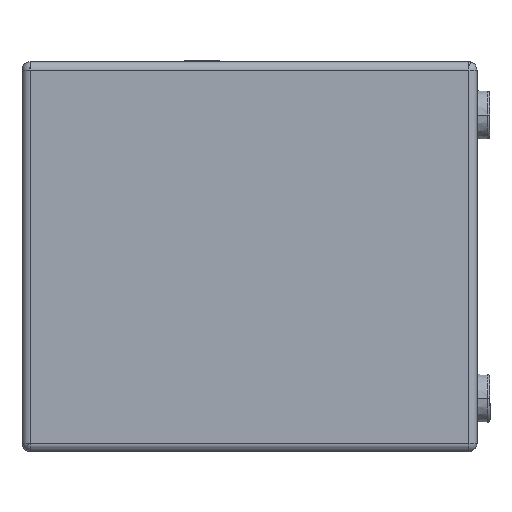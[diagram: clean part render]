
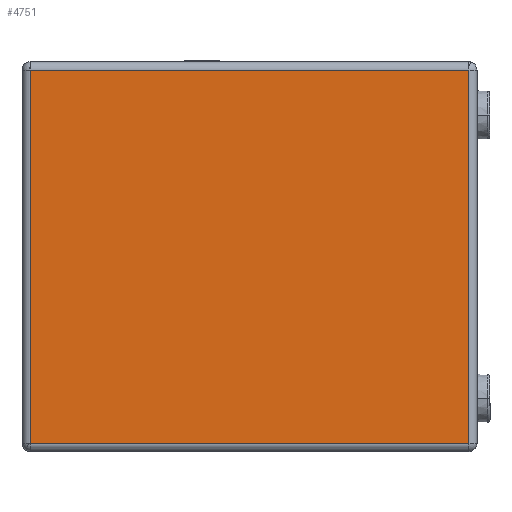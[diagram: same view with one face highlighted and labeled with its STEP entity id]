
A CAD part, left-side view. The second image highlights one B-rep face of the part: STEP entity #4751.
In plain terms, the highlighted planar face has unit normal (-1, 0, 0).
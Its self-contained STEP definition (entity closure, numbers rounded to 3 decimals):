
#482 = VERTEX_POINT ( 'NONE', #10391 ) ;
#3502 = CARTESIAN_POINT ( 'NONE',  ( 0., 6.5, -8.5 ) ) ;
#4541 = VERTEX_POINT ( 'NONE', #10662 ) ;
#4550 = EDGE_CURVE ( 'NONE', #4541, #9349, #10699, .T. ) ;
#4571 = EDGE_CURVE ( 'NONE', #9349, #482, #10721, .T. ) ;
#4593 = VERTEX_POINT ( 'NONE', #10733 ) ;
#4595 = EDGE_CURVE ( 'NONE', #482, #4593, #10790, .T. ) ;
#4748 = ORIENTED_EDGE ( 'NONE', *, *, #4595, .T. ) ;
#4751 = ADVANCED_FACE ( 'NONE', ( #11102 ), #11101, .T. ) ;
#4752 = EDGE_LOOP ( 'NONE', ( #4748, #4773, #4772, #4763 ) ) ;
#4763 = ORIENTED_EDGE ( 'NONE', *, *, #4571, .T. ) ;
#4772 = ORIENTED_EDGE ( 'NONE', *, *, #4550, .T. ) ;
#4773 = ORIENTED_EDGE ( 'NONE', *, *, #4774, .F. ) ;
#4774 = EDGE_CURVE ( 'NONE', #4541, #4593, #11136, .T. ) ;
#9349 = VERTEX_POINT ( 'NONE', #3502 ) ;
#10391 = CARTESIAN_POINT ( 'NONE',  ( 0., 6.5, 328.5 ) ) ;
#10662 = CARTESIAN_POINT ( 'NONE',  ( 0., 293.5, -8.5 ) ) ;
#10696 = DIRECTION ( 'NONE',  ( 0., -1., 0. ) ) ;
#10697 = VECTOR ( 'NONE', #10696, 1000. ) ;
#10698 = CARTESIAN_POINT ( 'NONE',  ( 0., 300., -8.5 ) ) ;
#10699 = LINE ( 'NONE', #10698, #10697 ) ;
#10718 = DIRECTION ( 'NONE',  ( 0., 0., 1. ) ) ;
#10719 = VECTOR ( 'NONE', #10718, 1000. ) ;
#10720 = CARTESIAN_POINT ( 'NONE',  ( 0., 6.5, 335. ) ) ;
#10721 = LINE ( 'NONE', #10720, #10719 ) ;
#10733 = CARTESIAN_POINT ( 'NONE',  ( 0., 293.5, 328.5 ) ) ;
#10787 = DIRECTION ( 'NONE',  ( 0., 1., 0. ) ) ;
#10788 = VECTOR ( 'NONE', #10787, 1000. ) ;
#10789 = CARTESIAN_POINT ( 'NONE',  ( 0., 300., 328.5 ) ) ;
#10790 = LINE ( 'NONE', #10789, #10788 ) ;
#11096 = DIRECTION ( 'NONE',  ( 0., 0., 1. ) ) ;
#11097 = DIRECTION ( 'NONE',  ( -1., 0., 0. ) ) ;
#11098 = CARTESIAN_POINT ( 'NONE',  ( 0., 300., 335. ) ) ;
#11100 = AXIS2_PLACEMENT_3D ( 'NONE', #11098, #11097, #11096 ) ;
#11101 = PLANE ( 'NONE',  #11100 ) ;
#11102 = FACE_OUTER_BOUND ( 'NONE', #4752, .T. ) ;
#11130 = DIRECTION ( 'NONE',  ( 0., 0., 1. ) ) ;
#11131 = VECTOR ( 'NONE', #11130, 1000. ) ;
#11132 = CARTESIAN_POINT ( 'NONE',  ( 0., 293.5, 335. ) ) ;
#11136 = LINE ( 'NONE', #11132, #11131 ) ;
